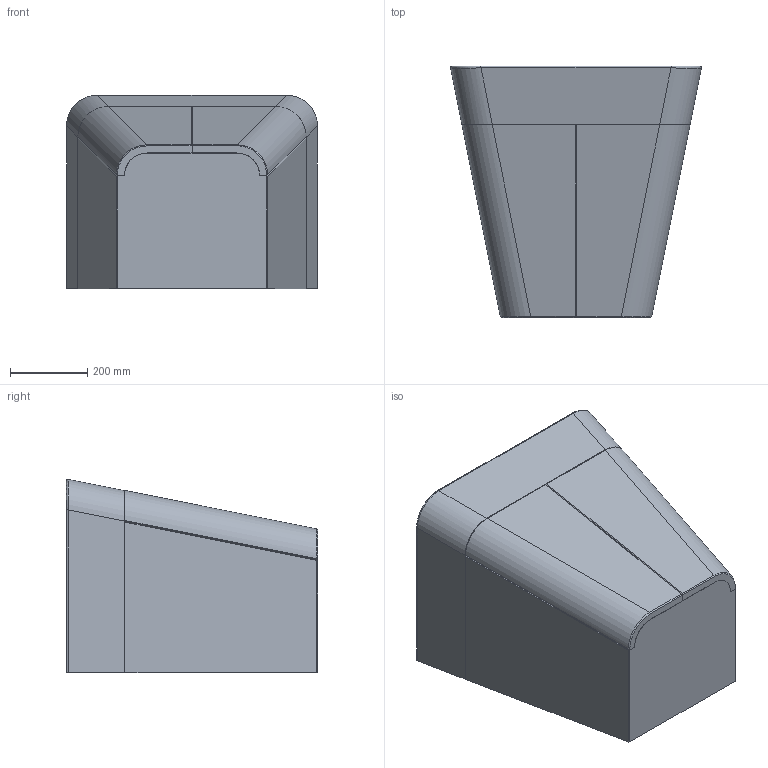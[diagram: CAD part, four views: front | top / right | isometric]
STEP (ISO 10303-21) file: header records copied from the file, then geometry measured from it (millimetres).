
FILE_DESCRIPTION (( 'STEP AP203' ), '1' );
FILE_NAME ('MBB65 S.STEP', '2021-10-21T08:38:02', ( '' ), ( '' ), 'SwSTEP 2.0', 'SolidWorks 2021', '' );
FILE_SCHEMA (( 'CONFIG_CONTROL_DESIGN' ));
Length unit declared in the file: millimetre
Products named in the file (6): SIFONE LAVABO SOSPESO_2; BUILD65 LAVABO; ANTA SX65; ANTA DX65; SCOCCA mobBUILD65; MBB65 S
Assembly tree (5 placements, depth 2):
  MBB65 S
    BUILD65 LAVABO
    SCOCCA mobBUILD65
    SIFONE LAVABO SOSPESO_2
    ANTA SX65
    ANTA DX65
Bounding box: 648.24 x 650 x 499.12 mm (x, y, z)
Volume: 42352969.4 mm3; surface area: 3927518.4 mm2
Topology: 5 solids, 9 shells, 278 faces, 679 edges, 419 vertices
Faces by surface type: bspline 99, cylinder 89, plane 87, cone 3
Full cylindrical faces by diameter (mm): 20 x1, 35 x1, 46 x1, 50 x1, 66 x1, 78 x1
Entity records: 109506 total; most frequent: CARTESIAN_POINT 103248, ORIENTED_EDGE 1328, DIRECTION 904, EDGE_CURVE 664, VERTEX_POINT 414, LINE 302, VECTOR 302, AXIS2_PLACEMENT_3D 301
